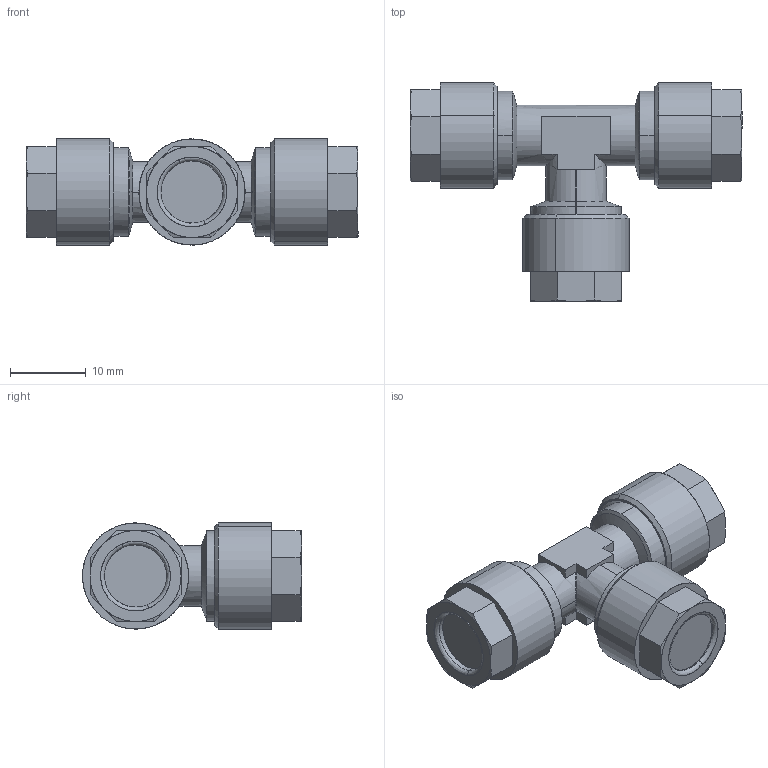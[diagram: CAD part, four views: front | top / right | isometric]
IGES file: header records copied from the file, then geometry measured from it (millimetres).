
Start section: SolidWorks IGES file using analytic representation for surfaces
Global section: file name: K:\Disegni Esecutivi\Serie 1000\Complessivi Serie 1000\1230\1230_iges\0123000005A.IGS; native system: SolidWorks 2008; preprocessor: SolidWorks 2008; author: cad05; date: 090210.172427; units: millimetre
Bounding box: 43.8 x 28.9 x 14 mm (x, y, z)
Surface area: 3080.6 mm2 (no closed solid volume)
Topology: 0 solids, 0 shells, 138 faces, 1368 edges, 1368 vertices
Faces by surface type: revolution 72, bspline 66
